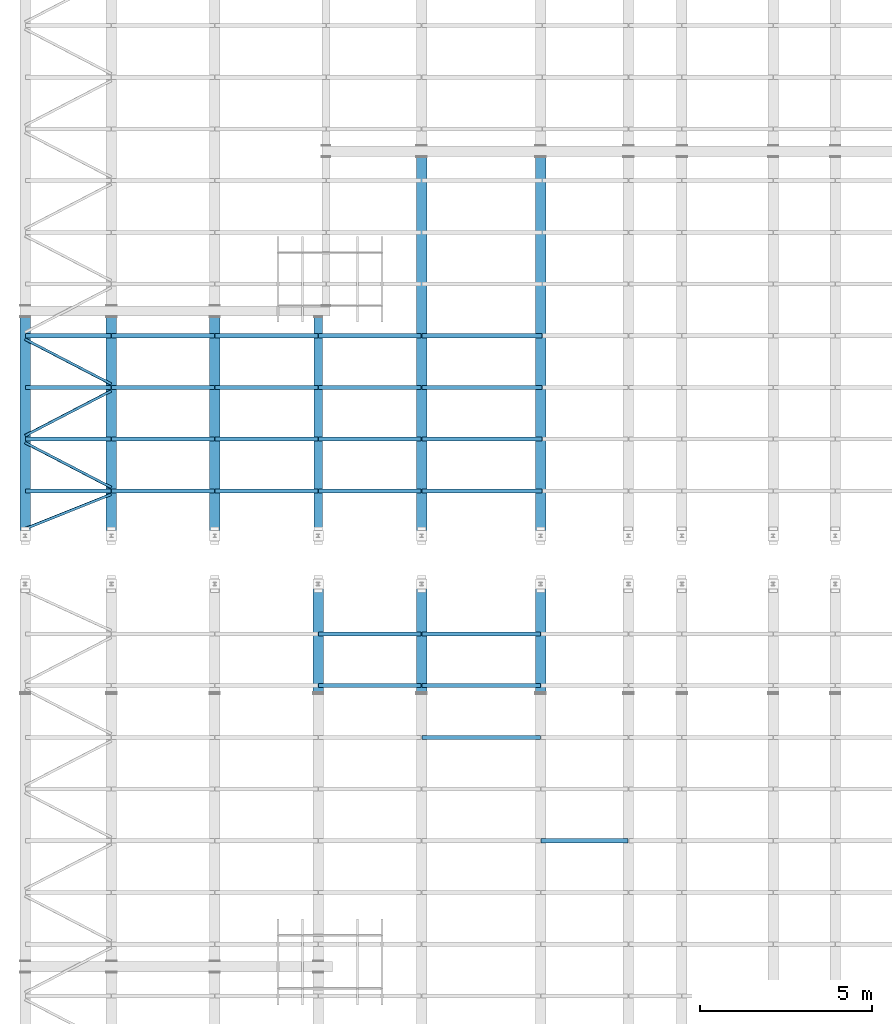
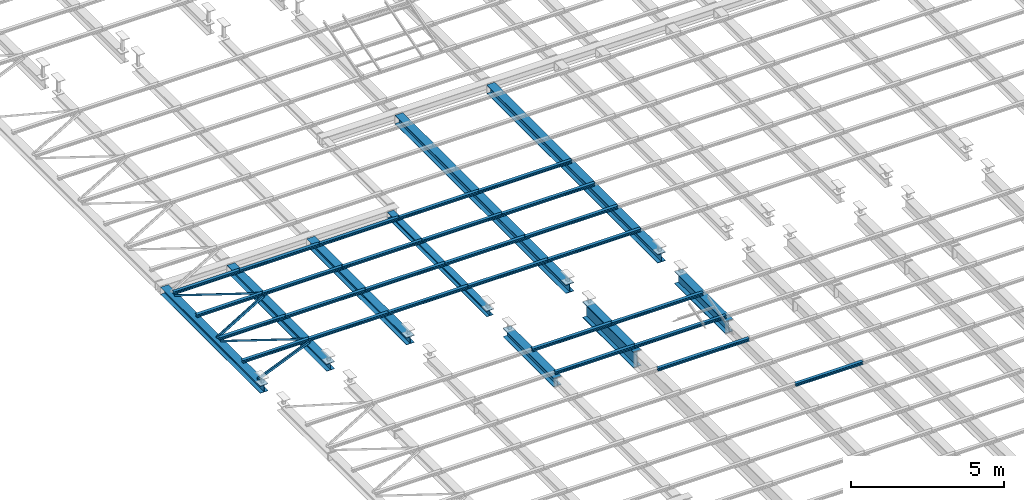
# One storey, part 51 of 139: 39 beams.
"""IFC2X3 building model written with IfcOpenShell, lengths in metres."""

from ifc_helpers import new_model, entity, si_unit, converted_unit, derived_unit, frame, origin, place, context, subcontext, project, spatial, polyline, outline, extrude, material, element, save


model = new_model("IFC2X3")

# Units and contexts
model_context = context("Model", 3, precision=1e-05, world=origin())
body_context = subcontext(model_context, "Body", "Model", "MODEL_VIEW")
ifc_project = project(units=[si_unit("LENGTHUNIT", "METRE"), si_unit("AREAUNIT", "SQUARE_METRE"), si_unit("VOLUMEUNIT", "CUBIC_METRE"), si_unit("MASSUNIT", "GRAM", prefix="KILO"), converted_unit("PLANEANGLEUNIT", "DEGREE", entity("IfcPlaneAngleMeasure", 0.0174532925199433), si_unit("PLANEANGLEUNIT", "RADIAN"), dimensions=[0, 0, 0, 0, 0, 0, 0]), derived_unit("THERMALTRANSMITTANCEUNIT", [(si_unit("POWERUNIT", "WATT"), 1), (si_unit("THERMODYNAMICTEMPERATUREUNIT", "KELVIN"), -1), (si_unit("LENGTHUNIT", "METRE"), -2)]), derived_unit("VOLUMETRICFLOWRATEUNIT", [(si_unit("LENGTHUNIT", "METRE"), 3), (converted_unit("TIMEUNIT", "hour", entity("IfcTimeMeasure", 3600.0), si_unit("TIMEUNIT", "SECOND"), dimensions=[0, 0, 1, 0, 0, 0, 0]), -1), (si_unit("LENGTHUNIT", "METRE"), -1)])], contexts=[model_context])

# Site, building, storey
site_placement = place(None, origin())
site = spatial("IfcSite", under=ifc_project, at=site_placement, Name="TWP_Speiseverteilzentrum SBW VZ II", CompositionType="ELEMENT")
building_placement = place(site_placement, origin())
building = spatial("IfcBuilding", under=site, at=building_placement, Name="Speiseverteilzentrum SBW VZ II", CompositionType="ELEMENT")
storey_placement = place(building_placement, frame((0.0, 0.0, 7.1307)))
storey = spatial("IfcBuildingStorey", under=building, at=storey_placement, Name="Wartung_FFB", CompositionType="ELEMENT", Elevation=7.1307)

# Beams
ifc_material_1 = material(Name="S235")
beam_1_placement = place(storey_placement, frame((13.0500000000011, 58.6425367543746, -0.335), z_axis=(0.0, 0.0, 1.0), x_axis=(-1.0, 0.0, 0.0)))
element("IfcBeam", 1, at=beam_1_placement, inside=storey, material=ifc_material_1, Name="Stahlträger", context=body_context, shape_type="SweptSolid", body=[
    extrude(outline(polyline([(-0.15, 0.145), (-0.15, 0.131), (-0.00424999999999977, 0.131), (-0.00424999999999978, -0.131), (-0.15, -0.131), (-0.15, -0.145), (0.15, -0.145), (0.15, -0.131), (0.00425000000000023, -0.131), (0.00425000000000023, 0.131), (0.15, 0.131), (0.15, 0.145), (-0.15, 0.145)])), frame((0.0, 0.0, 0.0), z_axis=(0.0, 1.0, 0.0), x_axis=(-1.0, 0.0, 0.0)), (0.0, 0.0, 1.0), 6.4925367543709),
])
ifc_material_2 = material(Name="S235")
beam_2_placement = place(storey_placement, frame((10.5500000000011, 58.6425367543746, -0.335), z_axis=(0.0, 0.0, 1.0), x_axis=(-1.0, 0.0, 0.0)))
element("IfcBeam", 2, at=beam_2_placement, inside=storey, material=ifc_material_2, Name="Stahlträger", context=body_context, shape_type="SweptSolid", body=[
    extrude(outline(polyline([(-0.15, 0.145), (-0.15, 0.131), (-0.00424999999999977, 0.131), (-0.00424999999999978, -0.131), (-0.15, -0.131), (-0.15, -0.145), (0.15, -0.145), (0.15, -0.131), (0.00425000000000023, -0.131), (0.00425000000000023, 0.131), (0.15, 0.131), (0.15, 0.145), (-0.15, 0.145)])), frame((0.0, 0.0, 0.0), z_axis=(0.0, 1.0, 0.0), x_axis=(-1.0, 0.0, 0.0)), (0.0, 0.0, 1.0), 6.4925367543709),
])
ifc_material_3 = material(Name="S235")
beam_3_placement = place(storey_placement, frame((16.0500000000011, 58.6425367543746, -0.335), z_axis=(0.0, 0.0, 1.0), x_axis=(-1.0, 0.0, 0.0)))
element("IfcBeam", 3, at=beam_3_placement, inside=storey, material=ifc_material_3, Name="Stahlträger", context=body_context, shape_type="SweptSolid", body=[
    extrude(outline(polyline([(-0.15, 0.145), (-0.15, 0.131), (-0.00424999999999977, 0.131), (-0.00424999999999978, -0.131), (-0.15, -0.131), (-0.15, -0.145), (0.15, -0.145), (0.15, -0.131), (0.00425000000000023, -0.131), (0.00425000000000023, 0.131), (0.15, 0.131), (0.15, 0.145), (-0.15, 0.145)])), frame((0.0, 0.0, 0.0), z_axis=(0.0, 1.0, 0.0), x_axis=(-1.0, 0.0, 0.0)), (0.0, 0.0, 1.0), 6.4925367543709),
])
ifc_material_4 = material(Name="S235")
beam_4_placement = place(storey_placement, frame((19.0500000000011, 58.6425367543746, -0.305), z_axis=(0.0, 0.0, 1.0), x_axis=(-1.0, 0.0, 0.0)))
element("IfcBeam", 4, at=beam_4_placement, inside=storey, material=ifc_material_4, Name="Stahlträger", context=body_context, shape_type="SweptSolid", body=[
    extrude(outline(polyline([(-0.12, 0.115), (-0.12, 0.103), (-0.00375000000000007, 0.103), (-0.00375000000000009, -0.103), (-0.12, -0.103), (-0.12, -0.115), (0.12, -0.115), (0.12, -0.103), (0.00374999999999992, -0.103), (0.00374999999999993, 0.103), (0.12, 0.103), (0.12, 0.115), (-0.12, 0.115)])), frame((0.0, 0.0, 0.0), z_axis=(0.0, 1.0, 0.0), x_axis=(-1.0, 0.0, 0.0)), (0.0, 0.0, 1.0), 6.49253675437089),
])
ifc_material_5 = material(Name="S235")
beam_5_placement = place(storey_placement, frame((22.0500000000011, 63.2824932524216, -0.365), z_axis=(0.0, 0.0, 1.0), x_axis=(-1.0, 0.0, 0.0)))
element("IfcBeam", 5, at=beam_5_placement, inside=storey, material=ifc_material_5, Name="Stahlträger", context=body_context, shape_type="SweptSolid", body=[
    extrude(outline(polyline([(-0.15, 0.175), (-0.15, 0.1575), (-0.00500000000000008, 0.1575), (-0.0050000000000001, -0.1575), (-0.15, -0.1575), (-0.15, -0.175), (0.15, -0.175), (0.15, -0.1575), (0.0049999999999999, -0.1575), (0.00499999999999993, 0.1575), (0.15, 0.1575), (0.15, 0.175), (-0.15, 0.175)])), frame((0.0, 0.0, 0.0), z_axis=(0.0, 1.0, 0.0), x_axis=(-1.0, 0.0, 0.0)), (0.0, 0.0, 1.0), 11.1324932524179),
])
ifc_material_6 = material(Name="S235")
beam_6_placement = place(storey_placement, frame((25.5025522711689, 63.2824932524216, -0.365), z_axis=(0.0, 0.0, 1.0), x_axis=(-1.0, 0.0, 0.0)))
element("IfcBeam", 6, at=beam_6_placement, inside=storey, material=ifc_material_6, Name="Stahlträger", context=body_context, shape_type="SweptSolid", body=[
    extrude(outline(polyline([(-0.15, 0.175), (-0.15, 0.1575), (-0.00500000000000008, 0.1575), (-0.0050000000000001, -0.1575), (-0.15, -0.1575), (-0.15, -0.175), (0.15, -0.175), (0.15, -0.1575), (0.0049999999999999, -0.1575), (0.00499999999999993, 0.1575), (0.15, 0.1575), (0.15, 0.175), (-0.15, 0.175)])), frame((0.0, 0.0, 0.0), z_axis=(0.0, 1.0, 0.0), x_axis=(-1.0, 0.0, 0.0)), (0.0, 0.0, 1.0), 11.1324932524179),
])
ifc_material_7 = material(Name="S235")
beam_7_placement = place(storey_placement, frame((19.0500000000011, 51.0500000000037, -0.365), z_axis=(0.0, 0.0, 1.0), x_axis=(-1.0, 0.0, 0.0)))
element("IfcBeam", 7, at=beam_7_placement, inside=storey, material=ifc_material_7, Name="Stahlträger", context=body_context, shape_type="SweptSolid", body=[
    extrude(outline(polyline([(-0.15, 0.175), (-0.15, 0.1575), (-0.00500000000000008, 0.1575), (-0.0050000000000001, -0.1575), (-0.15, -0.1575), (-0.15, -0.175), (0.15, -0.175), (0.15, -0.1575), (0.0049999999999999, -0.1575), (0.00499999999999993, 0.1575), (0.15, 0.1575), (0.15, 0.175), (-0.15, 0.175)])), frame((0.0, 0.0, 0.0), z_axis=(0.0, 1.0, 0.0), x_axis=(-1.0, 0.0, 0.0)), (0.0, 0.0, 1.0), 3.29792570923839),
])
ifc_material_8 = material(Name="S235")
beam_8_placement = place(storey_placement, frame((22.0500000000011, 51.0500000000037, -0.51), z_axis=(0.0, 0.0, 1.0), x_axis=(-1.0, 0.0, 0.0)))
element("IfcBeam", 8, at=beam_8_placement, inside=storey, material=ifc_material_8, Name="Stahlträger", context=body_context, shape_type="SweptSolid", body=[
    extrude(outline(polyline([(-0.15, 0.32), (-0.15, 0.294), (-0.00675000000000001, 0.294), (-0.00675000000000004, -0.294), (-0.15, -0.294), (-0.15, -0.32), (0.15, -0.32), (0.15, -0.294), (0.00674999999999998, -0.294), (0.00675000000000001, 0.294), (0.15, 0.294), (0.15, 0.32), (-0.15, 0.32)])), frame((0.0, 0.0, 0.0), z_axis=(0.0, 1.0, 0.0), x_axis=(-1.0, 0.0, 0.0)), (0.0, 0.0, 1.0), 3.2979257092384),
])
ifc_material_9 = material(Name="S235")
beam_9_placement = place(storey_placement, frame((25.5025522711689, 51.0500000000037, -0.435), z_axis=(0.0, 0.0, 1.0), x_axis=(-1.0, 0.0, 0.0)))
element("IfcBeam", 9, at=beam_9_placement, inside=storey, material=ifc_material_9, Name="Stahlträger", context=body_context, shape_type="SweptSolid", body=[
    extrude(outline(polyline([(-0.15, 0.245), (-0.15, 0.222), (-0.00599999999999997, 0.222), (-0.006, -0.222), (-0.15, -0.222), (-0.15, -0.245), (0.15, -0.245), (0.15, -0.222), (0.00600000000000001, -0.222), (0.00600000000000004, 0.222), (0.15, 0.222), (0.15, 0.245), (-0.15, 0.245)])), frame((0.0, 0.0, 0.0), z_axis=(0.0, 1.0, 0.0), x_axis=(-1.0, 0.0, 0.0)), (0.0, 0.0, 1.0), 3.29299999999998),
])
ifc_material_10 = material(Name="S235")
beam_10_placement = place(storey_placement, frame((13.0600000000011, 58.1011263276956, -0.133), z_axis=(0.0, 0.0, 1.0), x_axis=(0.0, -1.0, 0.0)))
element("IfcBeam", 10, at=beam_10_placement, inside=storey, material=ifc_material_10, Name="Nebenträger", context=body_context, shape_type="SweptSolid", body=[
    extrude(outline(polyline([(-0.06, 0.0570000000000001), (-0.06, 0.0490000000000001), (-0.00249999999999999, 0.0490000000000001), (-0.0025, -0.0489999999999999), (-0.06, -0.0489999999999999), (-0.06, -0.0569999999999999), (0.06, -0.0569999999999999), (0.06, -0.0489999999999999), (0.0025, -0.0489999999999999), (0.00250000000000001, 0.0490000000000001), (0.06, 0.0490000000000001), (0.06, 0.0570000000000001), (-0.06, 0.0570000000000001)])), frame((0.0, 0.0, 0.0), z_axis=(0.0, 1.0, 0.0), x_axis=(-1.0, 0.0, 0.0)), (0.0, 0.0, 1.0), 2.98),
])
ifc_material_11 = material(Name="S235")
beam_11_placement = place(storey_placement, frame((16.0600000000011, 58.1011263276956, -0.133), z_axis=(0.0, 0.0, 1.0), x_axis=(0.0, -1.0, 0.0)))
element("IfcBeam", 11, at=beam_11_placement, inside=storey, material=ifc_material_11, Name="Nebenträger", context=body_context, shape_type="SweptSolid", body=[
    extrude(outline(polyline([(-0.06, 0.0570000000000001), (-0.06, 0.0490000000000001), (-0.00249999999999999, 0.0490000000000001), (-0.0025, -0.0489999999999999), (-0.06, -0.0489999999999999), (-0.06, -0.0569999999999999), (0.06, -0.0569999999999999), (0.06, -0.0489999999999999), (0.0025, -0.0489999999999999), (0.00250000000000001, 0.0490000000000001), (0.06, 0.0490000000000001), (0.06, 0.0570000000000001), (-0.06, 0.0570000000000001)])), frame((0.0, 0.0, 0.0), z_axis=(0.0, 1.0, 0.0), x_axis=(-1.0, 0.0, 0.0)), (0.0, 0.0, 1.0), 2.98),
])
ifc_material_12 = material(Name="S235")
beam_12_placement = place(storey_placement, frame((19.0600000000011, 58.1011263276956, -0.133), z_axis=(0.0, 0.0, 1.0), x_axis=(0.0, -1.0, 0.0)))
element("IfcBeam", 12, at=beam_12_placement, inside=storey, material=ifc_material_12, Name="Nebenträger", context=body_context, shape_type="SweptSolid", body=[
    extrude(outline(polyline([(-0.06, 0.0570000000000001), (-0.06, 0.0490000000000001), (-0.00249999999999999, 0.0490000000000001), (-0.0025, -0.0489999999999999), (-0.06, -0.0489999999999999), (-0.06, -0.0569999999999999), (0.06, -0.0569999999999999), (0.06, -0.0489999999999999), (0.0025, -0.0489999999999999), (0.00250000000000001, 0.0490000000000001), (0.06, 0.0490000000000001), (0.06, 0.0570000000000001), (-0.06, 0.0570000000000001)])), frame((0.0, 0.0, 0.0), z_axis=(0.0, 1.0, 0.0), x_axis=(-1.0, 0.0, 0.0)), (0.0, 0.0, 1.0), 2.98),
])
ifc_material_13 = material(Name="S235")
beam_13_placement = place(storey_placement, frame((10.5600000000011, 58.1011263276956, -0.133), z_axis=(0.0, 0.0, 1.0), x_axis=(0.0, -1.0, 0.0)))
element("IfcBeam", 13, at=beam_13_placement, inside=storey, material=ifc_material_13, Name="Nebenträger", context=body_context, shape_type="SweptSolid", body=[
    extrude(outline(polyline([(-0.06, 0.0570000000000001), (-0.06, 0.0490000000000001), (-0.00249999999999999, 0.0490000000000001), (-0.0025, -0.0489999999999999), (-0.06, -0.0489999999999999), (-0.06, -0.0569999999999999), (0.06, -0.0569999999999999), (0.06, -0.0489999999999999), (0.0025, -0.0489999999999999), (0.00250000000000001, 0.0490000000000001), (0.06, 0.0490000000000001), (0.06, 0.0570000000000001), (-0.06, 0.0570000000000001)])), frame((0.0, 0.0, 0.0), z_axis=(0.0, 1.0, 0.0), x_axis=(-1.0, 0.0, 0.0)), (0.0, 0.0, 1.0), 2.48000000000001),
])
ifc_material_14 = material(Name="S235")
beam_14_placement = place(storey_placement, frame((13.0600000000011, 56.6011263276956, -0.133), z_axis=(0.0, 0.0, 1.0), x_axis=(0.0, -1.0, 0.0)))
element("IfcBeam", 14, at=beam_14_placement, inside=storey, material=ifc_material_14, Name="Nebenträger", context=body_context, shape_type="SweptSolid", body=[
    extrude(outline(polyline([(-0.06, 0.0570000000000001), (-0.06, 0.0490000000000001), (-0.00249999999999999, 0.0490000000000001), (-0.0025, -0.0489999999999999), (-0.06, -0.0489999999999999), (-0.06, -0.0569999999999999), (0.06, -0.0569999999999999), (0.06, -0.0489999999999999), (0.0025, -0.0489999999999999), (0.00250000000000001, 0.0490000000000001), (0.06, 0.0490000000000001), (0.06, 0.0570000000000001), (-0.06, 0.0570000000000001)])), frame((0.0, 0.0, 0.0), z_axis=(0.0, 1.0, 0.0), x_axis=(-1.0, 0.0, 0.0)), (0.0, 0.0, 1.0), 2.98),
])
ifc_material_15 = material(Name="S235")
beam_15_placement = place(storey_placement, frame((16.0600000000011, 56.6011263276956, -0.133), z_axis=(0.0, 0.0, 1.0), x_axis=(0.0, -1.0, 0.0)))
element("IfcBeam", 15, at=beam_15_placement, inside=storey, material=ifc_material_15, Name="Nebenträger", context=body_context, shape_type="SweptSolid", body=[
    extrude(outline(polyline([(-0.06, 0.0570000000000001), (-0.06, 0.0490000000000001), (-0.00249999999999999, 0.0490000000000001), (-0.0025, -0.0489999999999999), (-0.06, -0.0489999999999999), (-0.06, -0.0569999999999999), (0.06, -0.0569999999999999), (0.06, -0.0489999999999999), (0.0025, -0.0489999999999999), (0.00250000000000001, 0.0490000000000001), (0.06, 0.0490000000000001), (0.06, 0.0570000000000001), (-0.06, 0.0570000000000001)])), frame((0.0, 0.0, 0.0), z_axis=(0.0, 1.0, 0.0), x_axis=(-1.0, 0.0, 0.0)), (0.0, 0.0, 1.0), 2.98),
])
ifc_material_16 = material(Name="S235")
beam_16_placement = place(storey_placement, frame((19.0600000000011, 56.6011263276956, -0.133), z_axis=(0.0, 0.0, 1.0), x_axis=(0.0, -1.0, 0.0)))
element("IfcBeam", 16, at=beam_16_placement, inside=storey, material=ifc_material_16, Name="Nebenträger", context=body_context, shape_type="SweptSolid", body=[
    extrude(outline(polyline([(-0.06, 0.0570000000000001), (-0.06, 0.0490000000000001), (-0.00249999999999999, 0.0490000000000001), (-0.0025, -0.0489999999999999), (-0.06, -0.0489999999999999), (-0.06, -0.0569999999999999), (0.06, -0.0569999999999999), (0.06, -0.0489999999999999), (0.0025, -0.0489999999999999), (0.00250000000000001, 0.0490000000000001), (0.06, 0.0490000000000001), (0.06, 0.0570000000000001), (-0.06, 0.0570000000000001)])), frame((0.0, 0.0, 0.0), z_axis=(0.0, 1.0, 0.0), x_axis=(-1.0, 0.0, 0.0)), (0.0, 0.0, 1.0), 2.98),
])
ifc_material_17 = material(Name="S235")
beam_17_placement = place(storey_placement, frame((10.5600000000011, 56.6011263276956, -0.133), z_axis=(0.0, 0.0, 1.0), x_axis=(0.0, -1.0, 0.0)))
element("IfcBeam", 17, at=beam_17_placement, inside=storey, material=ifc_material_17, Name="Nebenträger", context=body_context, shape_type="SweptSolid", body=[
    extrude(outline(polyline([(-0.06, 0.0570000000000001), (-0.06, 0.0490000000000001), (-0.00249999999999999, 0.0490000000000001), (-0.0025, -0.0489999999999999), (-0.06, -0.0489999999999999), (-0.06, -0.0569999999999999), (0.06, -0.0569999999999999), (0.06, -0.0489999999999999), (0.0025, -0.0489999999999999), (0.00250000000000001, 0.0490000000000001), (0.06, 0.0490000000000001), (0.06, 0.0570000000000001), (-0.06, 0.0570000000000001)])), frame((0.0, 0.0, 0.0), z_axis=(0.0, 1.0, 0.0), x_axis=(-1.0, 0.0, 0.0)), (0.0, 0.0, 1.0), 2.48000000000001),
])
ifc_material_18 = material(Name="S235")
beam_18_placement = place(storey_placement, frame((13.0600000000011, 55.1011263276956, -0.133), z_axis=(0.0, 0.0, 1.0), x_axis=(0.0, -1.0, 0.0)))
element("IfcBeam", 18, at=beam_18_placement, inside=storey, material=ifc_material_18, Name="Nebenträger", context=body_context, shape_type="SweptSolid", body=[
    extrude(outline(polyline([(-0.06, 0.0570000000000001), (-0.06, 0.0490000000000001), (-0.00249999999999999, 0.0490000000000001), (-0.0025, -0.0489999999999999), (-0.06, -0.0489999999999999), (-0.06, -0.0569999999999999), (0.06, -0.0569999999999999), (0.06, -0.0489999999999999), (0.0025, -0.0489999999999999), (0.00250000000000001, 0.0490000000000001), (0.06, 0.0490000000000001), (0.06, 0.0570000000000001), (-0.06, 0.0570000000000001)])), frame((0.0, 0.0, 0.0), z_axis=(0.0, 1.0, 0.0), x_axis=(-1.0, 0.0, 0.0)), (0.0, 0.0, 1.0), 2.98),
])
ifc_material_19 = material(Name="S235")
beam_19_placement = place(storey_placement, frame((16.0600000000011, 55.1011263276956, -0.133), z_axis=(0.0, 0.0, 1.0), x_axis=(0.0, -1.0, 0.0)))
element("IfcBeam", 19, at=beam_19_placement, inside=storey, material=ifc_material_19, Name="Nebenträger", context=body_context, shape_type="SweptSolid", body=[
    extrude(outline(polyline([(-0.06, 0.0570000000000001), (-0.06, 0.0490000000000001), (-0.00249999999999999, 0.0490000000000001), (-0.0025, -0.0489999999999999), (-0.06, -0.0489999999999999), (-0.06, -0.0569999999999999), (0.06, -0.0569999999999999), (0.06, -0.0489999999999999), (0.0025, -0.0489999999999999), (0.00250000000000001, 0.0490000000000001), (0.06, 0.0490000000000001), (0.06, 0.0570000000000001), (-0.06, 0.0570000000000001)])), frame((0.0, 0.0, 0.0), z_axis=(0.0, 1.0, 0.0), x_axis=(-1.0, 0.0, 0.0)), (0.0, 0.0, 1.0), 2.98),
])
ifc_material_20 = material(Name="S235")
beam_20_placement = place(storey_placement, frame((19.0600000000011, 55.1011263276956, -0.133), z_axis=(0.0, 0.0, 1.0), x_axis=(0.0, -1.0, 0.0)))
element("IfcBeam", 20, at=beam_20_placement, inside=storey, material=ifc_material_20, Name="Nebenträger", context=body_context, shape_type="SweptSolid", body=[
    extrude(outline(polyline([(-0.06, 0.0570000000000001), (-0.06, 0.0490000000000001), (-0.00249999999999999, 0.0490000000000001), (-0.0025, -0.0489999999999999), (-0.06, -0.0489999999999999), (-0.06, -0.0569999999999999), (0.06, -0.0569999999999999), (0.06, -0.0489999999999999), (0.0025, -0.0489999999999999), (0.00250000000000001, 0.0490000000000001), (0.06, 0.0490000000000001), (0.06, 0.0570000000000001), (-0.06, 0.0570000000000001)])), frame((0.0, 0.0, 0.0), z_axis=(0.0, 1.0, 0.0), x_axis=(-1.0, 0.0, 0.0)), (0.0, 0.0, 1.0), 2.98),
])
ifc_material_21 = material(Name="S235")
beam_21_placement = place(storey_placement, frame((10.5600000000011, 55.1011263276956, -0.133), z_axis=(0.0, 0.0, 1.0), x_axis=(0.0, -1.0, 0.0)))
element("IfcBeam", 21, at=beam_21_placement, inside=storey, material=ifc_material_21, Name="Nebenträger", context=body_context, shape_type="SweptSolid", body=[
    extrude(outline(polyline([(-0.06, 0.0570000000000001), (-0.06, 0.0490000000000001), (-0.00249999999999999, 0.0490000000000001), (-0.0025, -0.0489999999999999), (-0.06, -0.0489999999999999), (-0.06, -0.0569999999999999), (0.06, -0.0569999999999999), (0.06, -0.0489999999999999), (0.0025, -0.0489999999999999), (0.00250000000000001, 0.0490000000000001), (0.06, 0.0490000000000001), (0.06, 0.0570000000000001), (-0.06, 0.0570000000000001)])), frame((0.0, 0.0, 0.0), z_axis=(0.0, 1.0, 0.0), x_axis=(-1.0, 0.0, 0.0)), (0.0, 0.0, 1.0), 2.48000000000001),
])
ifc_material_22 = material(Name="S235")
beam_22_placement = place(storey_placement, frame((13.0600000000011, 53.6011263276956, -0.133), z_axis=(0.0, 0.0, 1.0), x_axis=(0.0, -1.0, 0.0)))
element("IfcBeam", 22, at=beam_22_placement, inside=storey, material=ifc_material_22, Name="Nebenträger", context=body_context, shape_type="SweptSolid", body=[
    extrude(outline(polyline([(-0.06, 0.0570000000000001), (-0.06, 0.0490000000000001), (-0.00249999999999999, 0.0490000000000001), (-0.0025, -0.0489999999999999), (-0.06, -0.0489999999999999), (-0.06, -0.0569999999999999), (0.06, -0.0569999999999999), (0.06, -0.0489999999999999), (0.0025, -0.0489999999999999), (0.00250000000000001, 0.0490000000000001), (0.06, 0.0490000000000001), (0.06, 0.0570000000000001), (-0.06, 0.0570000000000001)])), frame((0.0, 0.0, 0.0), z_axis=(0.0, 1.0, 0.0), x_axis=(-1.0, 0.0, 0.0)), (0.0, 0.0, 1.0), 2.98),
])
ifc_material_23 = material(Name="S235")
beam_23_placement = place(storey_placement, frame((16.0600000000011, 53.6011263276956, -0.133), z_axis=(0.0, 0.0, 1.0), x_axis=(0.0, -1.0, 0.0)))
element("IfcBeam", 23, at=beam_23_placement, inside=storey, material=ifc_material_23, Name="Nebenträger", context=body_context, shape_type="SweptSolid", body=[
    extrude(outline(polyline([(-0.06, 0.0570000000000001), (-0.06, 0.0490000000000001), (-0.00249999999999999, 0.0490000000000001), (-0.0025, -0.0489999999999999), (-0.06, -0.0489999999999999), (-0.06, -0.0569999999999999), (0.06, -0.0569999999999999), (0.06, -0.0489999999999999), (0.0025, -0.0489999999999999), (0.00250000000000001, 0.0490000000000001), (0.06, 0.0490000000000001), (0.06, 0.0570000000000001), (-0.06, 0.0570000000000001)])), frame((0.0, 0.0, 0.0), z_axis=(0.0, 1.0, 0.0), x_axis=(-1.0, 0.0, 0.0)), (0.0, 0.0, 1.0), 2.98),
])
ifc_material_24 = material(Name="S235")
beam_24_placement = place(storey_placement, frame((19.0600000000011, 53.6011263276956, -0.133), z_axis=(0.0, 0.0, 1.0), x_axis=(0.0, -1.0, 0.0)))
element("IfcBeam", 24, at=beam_24_placement, inside=storey, material=ifc_material_24, Name="Nebenträger", context=body_context, shape_type="SweptSolid", body=[
    extrude(outline(polyline([(-0.06, 0.0570000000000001), (-0.06, 0.0490000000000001), (-0.00249999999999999, 0.0490000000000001), (-0.0025, -0.0489999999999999), (-0.06, -0.0489999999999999), (-0.06, -0.0569999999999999), (0.06, -0.0569999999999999), (0.06, -0.0489999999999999), (0.0025, -0.0489999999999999), (0.00250000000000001, 0.0490000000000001), (0.06, 0.0490000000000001), (0.06, 0.0570000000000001), (-0.06, 0.0570000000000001)])), frame((0.0, 0.0, 0.0), z_axis=(0.0, 1.0, 0.0), x_axis=(-1.0, 0.0, 0.0)), (0.0, 0.0, 1.0), 2.98),
])
ifc_material_25 = material(Name="S235")
beam_25_placement = place(storey_placement, frame((10.5600000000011, 53.6011263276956, -0.133), z_axis=(0.0, 0.0, 1.0), x_axis=(0.0, -1.0, 0.0)))
element("IfcBeam", 25, at=beam_25_placement, inside=storey, material=ifc_material_25, Name="Nebenträger", context=body_context, shape_type="SweptSolid", body=[
    extrude(outline(polyline([(-0.06, 0.0570000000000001), (-0.06, 0.0490000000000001), (-0.00249999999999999, 0.0490000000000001), (-0.0025, -0.0489999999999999), (-0.06, -0.0489999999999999), (-0.06, -0.0569999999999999), (0.06, -0.0569999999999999), (0.06, -0.0489999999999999), (0.0025, -0.0489999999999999), (0.00250000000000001, 0.0490000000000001), (0.06, 0.0490000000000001), (0.06, 0.0570000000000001), (-0.06, 0.0570000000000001)])), frame((0.0, 0.0, 0.0), z_axis=(0.0, 1.0, 0.0), x_axis=(-1.0, 0.0, 0.0)), (0.0, 0.0, 1.0), 2.48000000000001),
])
ifc_material_26 = material(Name="S235")
beam_26_placement = place(storey_placement, frame((19.0600000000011, 49.4500000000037, -0.133), z_axis=(0.0, 0.0, 1.0), x_axis=(0.0, -1.0, 0.0)))
element("IfcBeam", 26, at=beam_26_placement, inside=storey, material=ifc_material_26, Name="Nebenträger", context=body_context, shape_type="SweptSolid", body=[
    extrude(outline(polyline([(-0.06, 0.0570000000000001), (-0.06, 0.0490000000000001), (-0.00249999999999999, 0.0490000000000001), (-0.0025, -0.0489999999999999), (-0.06, -0.0489999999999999), (-0.06, -0.0569999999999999), (0.06, -0.0569999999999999), (0.06, -0.0489999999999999), (0.0025, -0.0489999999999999), (0.00250000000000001, 0.0490000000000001), (0.06, 0.0490000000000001), (0.06, 0.0570000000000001), (-0.06, 0.0570000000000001)])), frame((0.0, 0.0, 0.0), z_axis=(0.0, 1.0, 0.0), x_axis=(-1.0, 0.0, 0.0)), (0.0, 0.0, 1.0), 2.98),
])
ifc_material_27 = material(Name="S235")
beam_27_placement = place(storey_placement, frame((19.0600000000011, 47.9500000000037, -0.133), z_axis=(0.0, 0.0, 1.0), x_axis=(0.0, -1.0, 0.0)))
element("IfcBeam", 27, at=beam_27_placement, inside=storey, material=ifc_material_27, Name="Nebenträger", context=body_context, shape_type="SweptSolid", body=[
    extrude(outline(polyline([(-0.06, 0.0570000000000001), (-0.06, 0.0490000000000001), (-0.00249999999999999, 0.0490000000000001), (-0.0025, -0.0489999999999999), (-0.06, -0.0489999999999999), (-0.06, -0.0569999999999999), (0.06, -0.0569999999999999), (0.06, -0.0489999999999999), (0.0025, -0.0489999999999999), (0.00250000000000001, 0.0490000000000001), (0.06, 0.0490000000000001), (0.06, 0.0570000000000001), (-0.06, 0.0570000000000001)])), frame((0.0, 0.0, 0.0), z_axis=(0.0, 1.0, 0.0), x_axis=(-1.0, 0.0, 0.0)), (0.0, 0.0, 1.0), 2.98),
])
ifc_material_28 = material(Name="S235")
beam_28_placement = place(storey_placement, frame((22.0600000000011, 58.1011263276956, -0.133), z_axis=(0.0, 0.0, 1.0), x_axis=(0.0, -1.0, 0.0)))
element("IfcBeam", 28, at=beam_28_placement, inside=storey, material=ifc_material_28, Name="Nebenträger", context=body_context, shape_type="SweptSolid", body=[
    extrude(outline(polyline([(-0.06, 0.0570000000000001), (-0.06, 0.0490000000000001), (-0.00249999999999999, 0.0490000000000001), (-0.0025, -0.0489999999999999), (-0.06, -0.0489999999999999), (-0.06, -0.0569999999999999), (0.06, -0.0569999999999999), (0.06, -0.0489999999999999), (0.0025, -0.0489999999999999), (0.00250000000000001, 0.0490000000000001), (0.06, 0.0490000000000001), (0.06, 0.0570000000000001), (-0.06, 0.0570000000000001)])), frame((0.0, 0.0, 0.0), z_axis=(0.0, 1.0, 0.0), x_axis=(-1.0, 0.0, 0.0)), (0.0, 0.0, 1.0), 3.48),
])
ifc_material_29 = material(Name="S235")
beam_29_placement = place(storey_placement, frame((22.0600000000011, 56.6011263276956, -0.133), z_axis=(0.0, 0.0, 1.0), x_axis=(0.0, -1.0, 0.0)))
element("IfcBeam", 29, at=beam_29_placement, inside=storey, material=ifc_material_29, Name="Nebenträger", context=body_context, shape_type="SweptSolid", body=[
    extrude(outline(polyline([(-0.06, 0.0570000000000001), (-0.06, 0.0490000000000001), (-0.00249999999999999, 0.0490000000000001), (-0.0025, -0.0489999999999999), (-0.06, -0.0489999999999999), (-0.06, -0.0569999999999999), (0.06, -0.0569999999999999), (0.06, -0.0489999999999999), (0.0025, -0.0489999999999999), (0.00250000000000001, 0.0490000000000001), (0.06, 0.0490000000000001), (0.06, 0.0570000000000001), (-0.06, 0.0570000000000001)])), frame((0.0, 0.0, 0.0), z_axis=(0.0, 1.0, 0.0), x_axis=(-1.0, 0.0, 0.0)), (0.0, 0.0, 1.0), 3.48),
])
ifc_material_30 = material(Name="S235")
beam_30_placement = place(storey_placement, frame((22.0600000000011, 55.1011263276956, -0.133), z_axis=(0.0, 0.0, 1.0), x_axis=(0.0, -1.0, 0.0)))
element("IfcBeam", 30, at=beam_30_placement, inside=storey, material=ifc_material_30, Name="Nebenträger", context=body_context, shape_type="SweptSolid", body=[
    extrude(outline(polyline([(-0.06, 0.0570000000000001), (-0.06, 0.0490000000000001), (-0.00249999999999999, 0.0490000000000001), (-0.0025, -0.0489999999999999), (-0.06, -0.0489999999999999), (-0.06, -0.0569999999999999), (0.06, -0.0569999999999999), (0.06, -0.0489999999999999), (0.0025, -0.0489999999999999), (0.00250000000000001, 0.0490000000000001), (0.06, 0.0490000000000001), (0.06, 0.0570000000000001), (-0.06, 0.0570000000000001)])), frame((0.0, 0.0, 0.0), z_axis=(0.0, 1.0, 0.0), x_axis=(-1.0, 0.0, 0.0)), (0.0, 0.0, 1.0), 3.48),
])
ifc_material_31 = material(Name="S235")
beam_31_placement = place(storey_placement, frame((22.0600000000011, 53.6011263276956, -0.133), z_axis=(0.0, 0.0, 1.0), x_axis=(0.0, -1.0, 0.0)))
element("IfcBeam", 31, at=beam_31_placement, inside=storey, material=ifc_material_31, Name="Nebenträger", context=body_context, shape_type="SweptSolid", body=[
    extrude(outline(polyline([(-0.06, 0.0570000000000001), (-0.06, 0.0490000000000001), (-0.00249999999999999, 0.0490000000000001), (-0.0025, -0.0489999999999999), (-0.06, -0.0489999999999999), (-0.06, -0.0569999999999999), (0.06, -0.0569999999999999), (0.06, -0.0489999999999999), (0.0025, -0.0489999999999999), (0.00250000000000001, 0.0490000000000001), (0.06, 0.0490000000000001), (0.06, 0.0570000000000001), (-0.06, 0.0570000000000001)])), frame((0.0, 0.0, 0.0), z_axis=(0.0, 1.0, 0.0), x_axis=(-1.0, 0.0, 0.0)), (0.0, 0.0, 1.0), 3.48),
])
ifc_material_32 = material(Name="S235")
beam_32_placement = place(storey_placement, frame((22.0600000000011, 49.4500000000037, -0.133), z_axis=(0.0, 0.0, 1.0), x_axis=(0.0, -1.0, 0.0)))
element("IfcBeam", 32, at=beam_32_placement, inside=storey, material=ifc_material_32, Name="Nebenträger", context=body_context, shape_type="SweptSolid", body=[
    extrude(outline(polyline([(-0.06, 0.0570000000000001), (-0.06, 0.0490000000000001), (-0.00249999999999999, 0.0490000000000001), (-0.0025, -0.0489999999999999), (-0.06, -0.0489999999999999), (-0.06, -0.0569999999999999), (0.06, -0.0569999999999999), (0.06, -0.0489999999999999), (0.0025, -0.0489999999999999), (0.00250000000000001, 0.0490000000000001), (0.06, 0.0490000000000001), (0.06, 0.0570000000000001), (-0.06, 0.0570000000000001)])), frame((0.0, 0.0, 0.0), z_axis=(0.0, 1.0, 0.0), x_axis=(-1.0, 0.0, 0.0)), (0.0, 0.0, 1.0), 3.43255227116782),
])
ifc_material_33 = material(Name="S235")
beam_33_placement = place(storey_placement, frame((22.0600000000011, 47.9500000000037, -0.133), z_axis=(0.0, 0.0, 1.0), x_axis=(0.0, -1.0, 0.0)))
element("IfcBeam", 33, at=beam_33_placement, inside=storey, material=ifc_material_33, Name="Nebenträger", context=body_context, shape_type="SweptSolid", body=[
    extrude(outline(polyline([(-0.06, 0.0570000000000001), (-0.06, 0.0490000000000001), (-0.00249999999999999, 0.0490000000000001), (-0.0025, -0.0489999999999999), (-0.06, -0.0489999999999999), (-0.06, -0.0569999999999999), (0.06, -0.0569999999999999), (0.06, -0.0489999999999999), (0.0025, -0.0489999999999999), (0.00250000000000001, 0.0490000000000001), (0.06, 0.0490000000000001), (0.06, 0.0570000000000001), (-0.06, 0.0570000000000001)])), frame((0.0, 0.0, 0.0), z_axis=(0.0, 1.0, 0.0), x_axis=(-1.0, 0.0, 0.0)), (0.0, 0.0, 1.0), 3.43255227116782),
])
ifc_material_34 = material(Name="S235")
beam_34_placement = place(storey_placement, frame((22.0600000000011, 46.4500000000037, -0.133), z_axis=(0.0, 0.0, 1.0), x_axis=(0.0, -1.0, 0.0)))
element("IfcBeam", 34, at=beam_34_placement, inside=storey, material=ifc_material_34, Name="Nebenträger", context=body_context, shape_type="SweptSolid", body=[
    extrude(outline(polyline([(-0.06, 0.0570000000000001), (-0.06, 0.0490000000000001), (-0.00249999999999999, 0.0490000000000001), (-0.0025, -0.0489999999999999), (-0.06, -0.0489999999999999), (-0.06, -0.0569999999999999), (0.06, -0.0569999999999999), (0.06, -0.0489999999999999), (0.0025, -0.0489999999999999), (0.00250000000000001, 0.0490000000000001), (0.06, 0.0490000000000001), (0.06, 0.0570000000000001), (-0.06, 0.0570000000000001)])), frame((0.0, 0.0, 0.0), z_axis=(0.0, 1.0, 0.0), x_axis=(-1.0, 0.0, 0.0)), (0.0, 0.0, 1.0), 3.43255227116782),
])
ifc_material_35 = material(Name="S235")
beam_35_placement = place(storey_placement, frame((25.5125522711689, 43.4500000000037, -0.133), z_axis=(0.0, 0.0, 1.0), x_axis=(0.0, -1.0, 0.0)))
element("IfcBeam", 35, at=beam_35_placement, inside=storey, material=ifc_material_35, Name="Nebenträger", context=body_context, shape_type="SweptSolid", body=[
    extrude(outline(polyline([(-0.06, 0.0570000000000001), (-0.06, 0.0490000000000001), (-0.00249999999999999, 0.0490000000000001), (-0.0025, -0.0489999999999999), (-0.06, -0.0489999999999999), (-0.06, -0.0569999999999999), (0.06, -0.0569999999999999), (0.06, -0.0489999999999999), (0.0025, -0.0489999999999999), (0.00250000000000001, 0.0490000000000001), (0.06, 0.0490000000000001), (0.06, 0.0570000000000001), (-0.06, 0.0570000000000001)])), frame((0.0, 0.0, 0.0), z_axis=(0.0, 1.0, 0.0), x_axis=(-1.0, 0.0, 0.0)), (0.0, 0.0, 1.0), 2.52744772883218),
])
ifc_material_36 = material(Name="S235")
beam_36_placement = place(storey_placement, frame((10.5365784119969, 57.9843078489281, -0.167052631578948), z_axis=(0.0, 0.0, 1.0), x_axis=(-0.4612662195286, -0.887261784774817, 0.0)))
element("IfcBeam", 36, at=beam_36_placement, inside=storey, material=ifc_material_36, Name="Kreuzverband", context=body_context, shape_type="SweptSolid", body=[
    extrude(outline(polyline([(0.0570526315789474, -0.0229473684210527), (0.0570526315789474, -0.0149473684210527), (-0.0149473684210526, -0.0149473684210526), (-0.0149473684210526, 0.0570526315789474), (-0.0229473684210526, 0.0570526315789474), (-0.0229473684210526, -0.0229473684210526), (0.0570526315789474, -0.0229473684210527)])), frame((0.0, 0.0, 0.0), z_axis=(0.0, 1.00000000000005, 0.0), x_axis=(-1.0, 0.0, 0.0)), (0.0, 0.0, 1.0), 2.82000000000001),
])
ifc_material_37 = material(Name="S235")
beam_37_placement = place(storey_placement, frame((10.5365784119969, 55.2179448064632, -0.167052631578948), z_axis=(0.0, 0.0, 1.0), x_axis=(0.4612662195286, -0.887261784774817, 0.0)))
element("IfcBeam", 37, at=beam_37_placement, inside=storey, material=ifc_material_37, Name="Kreuzverband", context=body_context, shape_type="SweptSolid", body=[
    extrude(outline(polyline([(0.0229473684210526, -0.0229473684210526), (0.0229473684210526, 0.0570526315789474), (0.0149473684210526, 0.0570526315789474), (0.0149473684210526, -0.0149473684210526), (-0.0570526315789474, -0.0149473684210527), (-0.0570526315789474, -0.0229473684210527), (0.0229473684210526, -0.0229473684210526)])), frame((0.0, 0.0, 0.0), z_axis=(0.0, 1.00000000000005, 0.0), x_axis=(-1.0, 0.0, 0.0)), (0.0, 0.0, 1.0), 2.82000000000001),
])
ifc_material_38 = material(Name="S235")
beam_38_placement = place(storey_placement, frame((10.5365784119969, 54.9843078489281, -0.167052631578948), z_axis=(0.0, 0.0, 1.0), x_axis=(-0.4612662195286, -0.887261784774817, 0.0)))
element("IfcBeam", 38, at=beam_38_placement, inside=storey, material=ifc_material_38, Name="Kreuzverband", context=body_context, shape_type="SweptSolid", body=[
    extrude(outline(polyline([(0.0570526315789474, -0.0229473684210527), (0.0570526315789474, -0.0149473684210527), (-0.0149473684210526, -0.0149473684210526), (-0.0149473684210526, 0.0570526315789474), (-0.0229473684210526, 0.0570526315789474), (-0.0229473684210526, -0.0229473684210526), (0.0570526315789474, -0.0229473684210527)])), frame((0.0, 0.0, 0.0), z_axis=(0.0, 1.00000000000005, 0.0), x_axis=(-1.0, 0.0, 0.0)), (0.0, 0.0, 1.0), 2.82000000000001),
])
ifc_material_39 = material(Name="S235")
beam_39_placement = place(storey_placement, frame((10.5129042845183, 52.5063976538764, -0.167052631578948), z_axis=(0.0, 0.0, 1.0), x_axis=(0.371991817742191, -0.928236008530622, 0.0)))
element("IfcBeam", 39, at=beam_39_placement, inside=storey, material=ifc_material_39, Name="Kreuzverband", context=body_context, shape_type="SweptSolid", body=[
    extrude(outline(polyline([(0.0229473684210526, -0.0229473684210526), (0.0229473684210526, 0.0570526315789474), (0.0149473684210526, 0.0570526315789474), (0.0149473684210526, -0.0149473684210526), (-0.0570526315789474, -0.0149473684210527), (-0.0570526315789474, -0.0229473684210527), (0.0229473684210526, -0.0229473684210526)])), frame((0.0, 0.0, 0.0), z_axis=(0.0, 1.00000000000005, 0.0), x_axis=(-1.0, 0.0, 0.0)), (0.0, 0.0, 1.0), 2.71881690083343),
])

save(model, "model.ifc")
